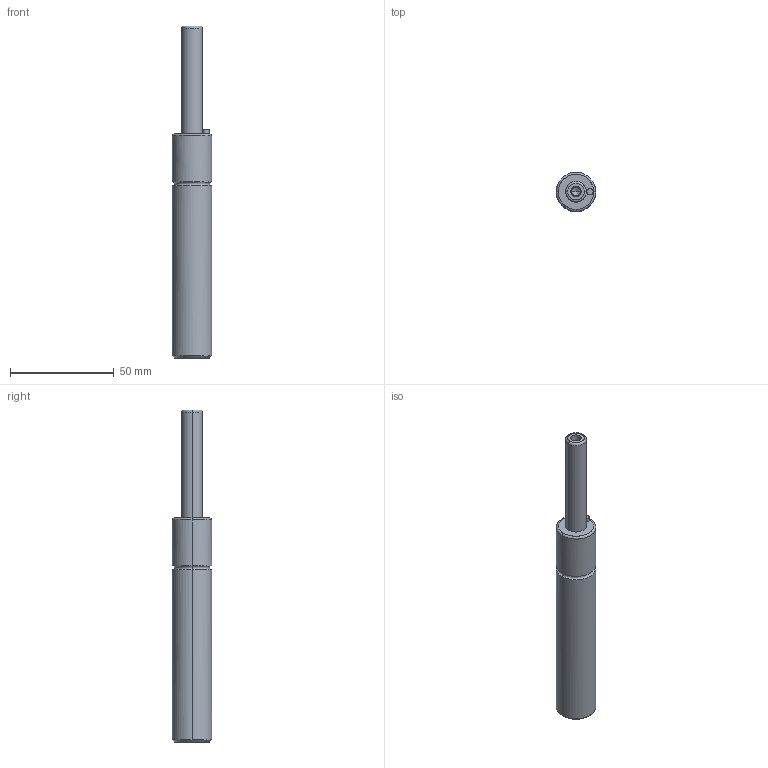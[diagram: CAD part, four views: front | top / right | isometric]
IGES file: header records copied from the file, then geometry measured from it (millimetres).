
Global section: file name: E:\UnigraphicsGraphicData\MISUMI_PRESS-PARTS\IGES\3d_gsm19-50_03950_r00.igs; native system: NX V5.0; preprocessor: UGS NX IGES V5.0; author: MISUMI; date: 20110105.160806; units: millimetre
Bounding box: 19 x 18.98 x 160 mm (x, y, z)
Surface area: 8965.5 mm2 (no closed solid volume)
Topology: 0 solids, 0 shells, 34 faces, 208 edges, 204 vertices
Faces by surface type: bspline 34
